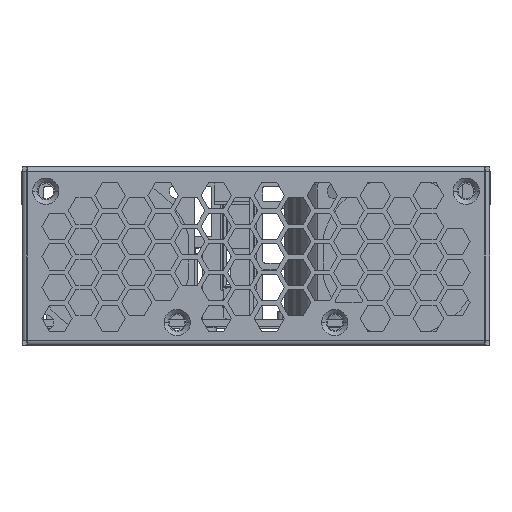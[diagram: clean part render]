
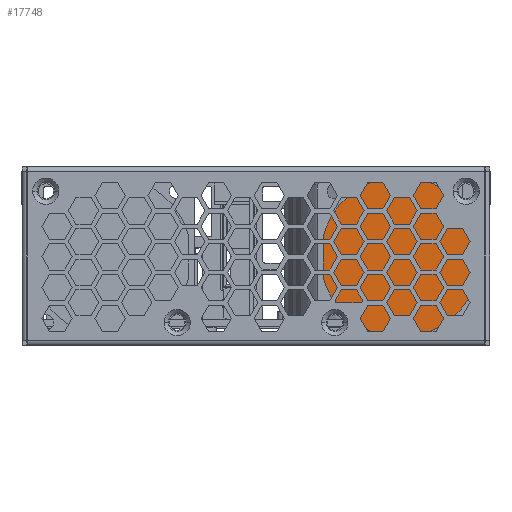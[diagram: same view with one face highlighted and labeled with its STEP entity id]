
A CAD part, front view. The second image highlights one B-rep face of the part: STEP entity #17748.
In plain terms, the highlighted planar face has unit normal (0, -1, 0).
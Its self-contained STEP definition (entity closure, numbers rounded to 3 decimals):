
#17060=DIRECTION('',(0.,0.,-1.));
#17061=VECTOR('',#17060,9.364);
#17062=CARTESIAN_POINT('',(117.463,82.928,25.882));
#17063=LINE('',#17062,#17061);
#17072=CARTESIAN_POINT('',(99.787,82.928,21.2));
#17073=DIRECTION('',(0.,-1.,0.));
#17074=DIRECTION('',(0.256,0.,-0.967));
#17075=AXIS2_PLACEMENT_3D('',#17072,#17073,#17074);
#17077=CARTESIAN_POINT('',(99.787,82.928,21.2));
#17078=DIRECTION('',(0.,-1.,0.));
#17079=DIRECTION('',(-0.967,0.,-0.256));
#17080=AXIS2_PLACEMENT_3D('',#17077,#17078,#17079);
#17082=CARTESIAN_POINT('',(99.787,82.928,21.2));
#17083=DIRECTION('',(0.,-1.,0.));
#17084=DIRECTION('',(-0.256,0.,0.967));
#17085=AXIS2_PLACEMENT_3D('',#17082,#17083,#17084);
#17087=CARTESIAN_POINT('',(99.787,82.928,21.2));
#17088=DIRECTION('',(0.,-1.,0.));
#17089=DIRECTION('',(0.967,0.,0.256));
#17090=AXIS2_PLACEMENT_3D('',#17087,#17088,#17089);
#17096=DIRECTION('',(-1.,0.,0.));
#17097=VECTOR('',#17096,9.364);
#17098=CARTESIAN_POINT('',(104.469,82.928,3.524));
#17099=LINE('',#17098,#17097);
#17112=DIRECTION('',(0.,0.,1.));
#17113=VECTOR('',#17112,9.364);
#17114=CARTESIAN_POINT('',(82.111,82.928,16.518));
#17115=LINE('',#17114,#17113);
#17132=DIRECTION('',(1.,0.,0.));
#17133=VECTOR('',#17132,9.364);
#17134=CARTESIAN_POINT('',(95.105,82.928,38.876));
#17135=LINE('',#17134,#17133);
#17208=CARTESIAN_POINT('',(104.469,82.928,3.524));
#17209=CARTESIAN_POINT('',(117.463,82.928,16.518));
#17210=VERTEX_POINT('',#17208);
#17211=VERTEX_POINT('',#17209);
#17212=CARTESIAN_POINT('',(117.463,82.928,25.882));
#17213=VERTEX_POINT('',#17212);
#17214=CARTESIAN_POINT('',(104.469,82.928,38.876));
#17215=VERTEX_POINT('',#17214);
#17216=CARTESIAN_POINT('',(95.105,82.928,38.876));
#17217=VERTEX_POINT('',#17216);
#17218=CARTESIAN_POINT('',(82.111,82.928,25.882));
#17219=VERTEX_POINT('',#17218);
#17220=CARTESIAN_POINT('',(82.111,82.928,16.518));
#17221=VERTEX_POINT('',#17220);
#17222=CARTESIAN_POINT('',(95.105,82.928,3.524));
#17223=VERTEX_POINT('',#17222);
#17727=CARTESIAN_POINT('',(99.787,82.928,21.2));
#17728=DIRECTION('',(0.,1.,0.));
#17729=DIRECTION('',(-1.,0.,0.));
#17730=AXIS2_PLACEMENT_3D('',#17727,#17728,#17729);
#17731=PLANE('',#17730);
#17732=ORIENTED_EDGE('',*,*,#17711,.F.);
#17734=ORIENTED_EDGE('',*,*,#17733,.T.);
#17736=ORIENTED_EDGE('',*,*,#17735,.F.);
#17738=ORIENTED_EDGE('',*,*,#17737,.T.);
#17740=ORIENTED_EDGE('',*,*,#17739,.F.);
#17742=ORIENTED_EDGE('',*,*,#17741,.T.);
#17744=ORIENTED_EDGE('',*,*,#17743,.F.);
#17745=ORIENTED_EDGE('',*,*,#17692,.T.);
#17746=EDGE_LOOP('',(#17732,#17734,#17736,#17738,#17740,#17742,#17744,#17745));
#17747=FACE_OUTER_BOUND('',#17746,.F.);
#17076=CIRCLE('',#17075,18.286);
#17081=CIRCLE('',#17080,18.286);
#17086=CIRCLE('',#17085,18.286);
#17091=CIRCLE('',#17090,18.286);
#17692=EDGE_CURVE('',#17213,#17211,#17063,.T.);
#17711=EDGE_CURVE('',#17210,#17211,#17076,.T.);
#17733=EDGE_CURVE('',#17210,#17223,#17099,.T.);
#17735=EDGE_CURVE('',#17221,#17223,#17081,.T.);
#17737=EDGE_CURVE('',#17221,#17219,#17115,.T.);
#17739=EDGE_CURVE('',#17217,#17219,#17086,.T.);
#17741=EDGE_CURVE('',#17217,#17215,#17135,.T.);
#17743=EDGE_CURVE('',#17213,#17215,#17091,.T.);
#17748=ADVANCED_FACE('',(#17747),#17731,.F.);
